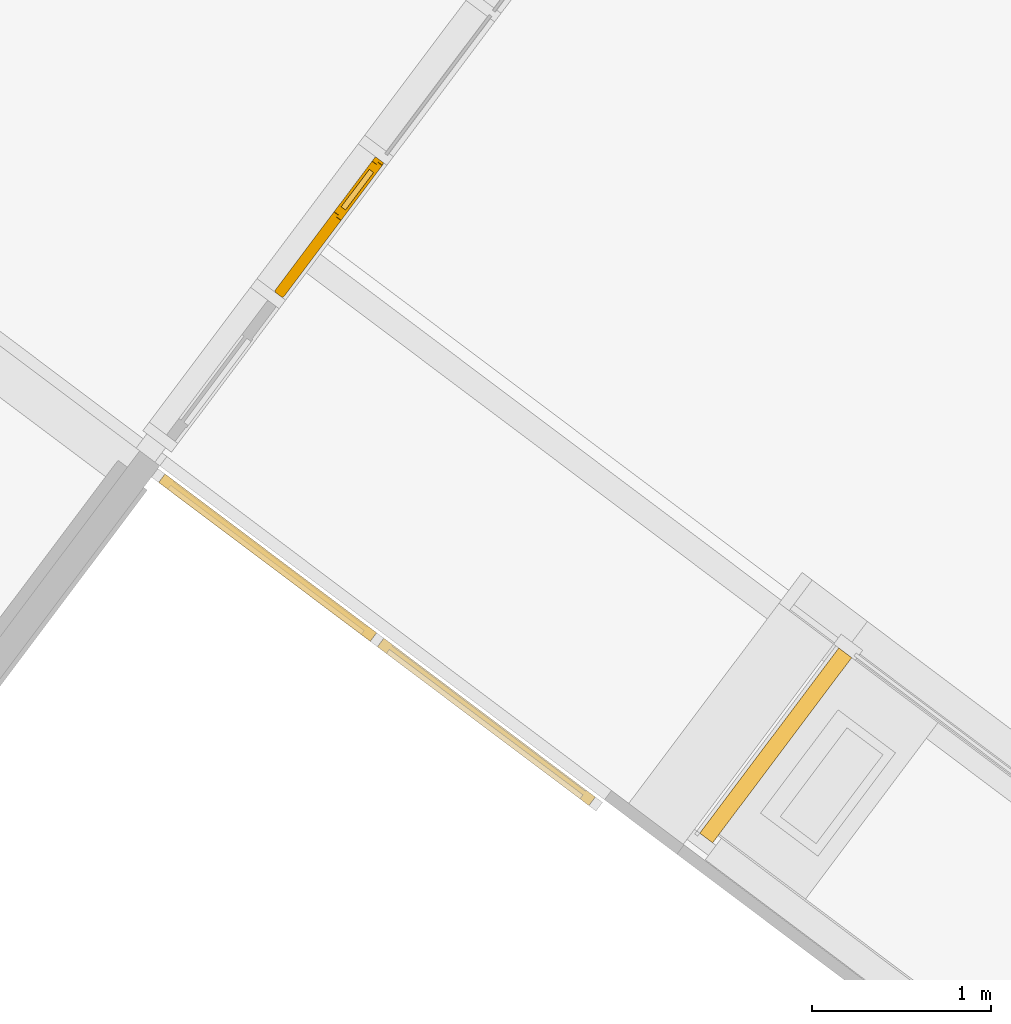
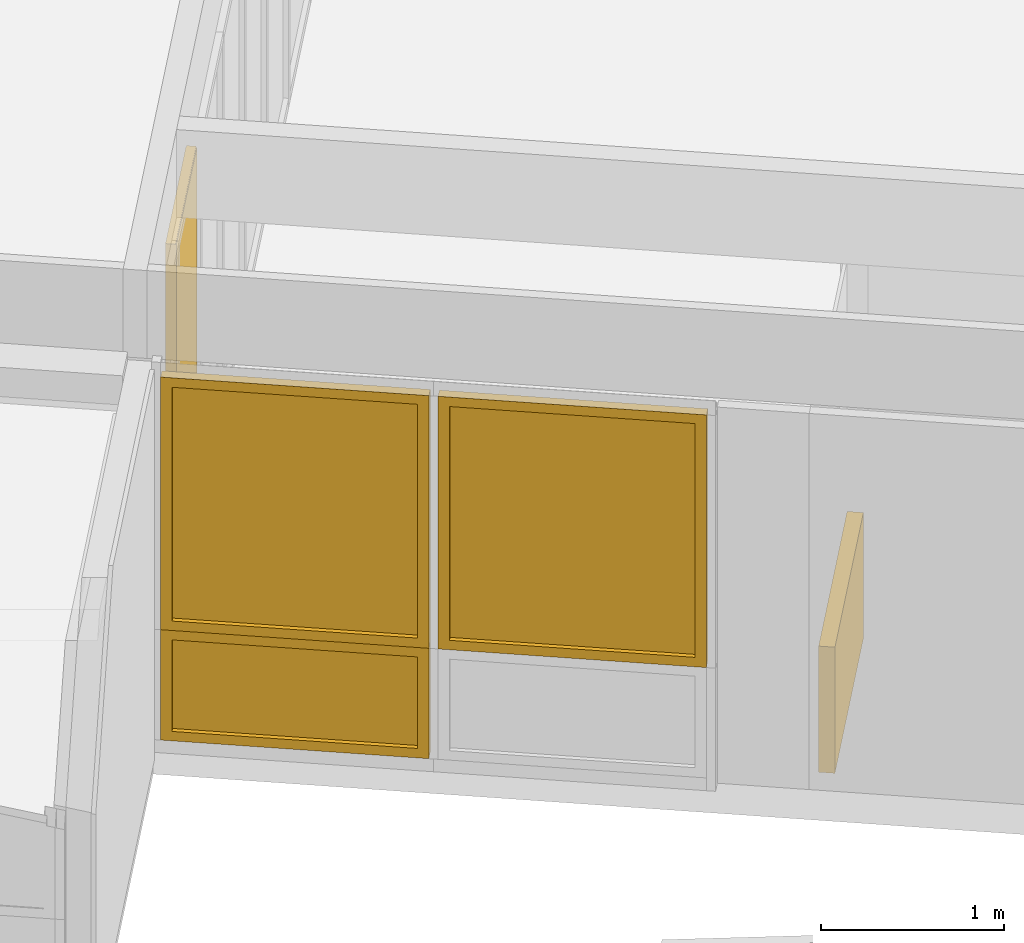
# One storey, part 149 of 243: 4 windows, 1 curtain wall, 3 elements without a shape of their own.
"""IFC2X3 building model written with IfcOpenShell, lengths in metres."""

from ifc_helpers import new_model, entity, si_unit, converted_unit, derived_unit, direction, frame, frame_2d, origin, place, context, subcontext, project, spatial, rectangle, extrude, faceted_brep, source, transform, mapped, material, material_list, layer, layer_set, layer_usage, type_object, type_shapes, element, aggregate, save


model = new_model("IFC2X3")

# Units and contexts
model_context = context("Model", 3, precision=1e-05, world=origin(), true_north=direction((6.123031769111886e-17, 1.0)))
body_context = subcontext(model_context, "Body", "Model", "MODEL_VIEW")
ifc_project = project(units=[si_unit("LENGTHUNIT", "METRE"), si_unit("AREAUNIT", "SQUARE_METRE"), si_unit("VOLUMEUNIT", "CUBIC_METRE"), converted_unit("PLANEANGLEUNIT", "DEGREE", entity("IfcRatioMeasure", 0.017453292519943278), si_unit("PLANEANGLEUNIT", "RADIAN"), dimensions=[0, 0, 0, 0, 0, 0, 0]), si_unit("MASSUNIT", "GRAM", prefix="KILO"), derived_unit("MASSDENSITYUNIT", [(si_unit("MASSUNIT", "GRAM", prefix="KILO"), 1), (si_unit("LENGTHUNIT", "METRE"), -3)]), derived_unit("IONCONCENTRATIONUNIT", [(si_unit("MASSUNIT", "GRAM", prefix="KILO"), 1), (si_unit("LENGTHUNIT", "METRE"), -3)]), derived_unit("MOMENTOFINERTIAUNIT", [(si_unit("LENGTHUNIT", "METRE"), 4)]), si_unit("TIMEUNIT", "SECOND"), si_unit("FREQUENCYUNIT", "HERTZ"), si_unit("THERMODYNAMICTEMPERATUREUNIT", "DEGREE_CELSIUS"), derived_unit("THERMALTRANSMITTANCEUNIT", [(si_unit("MASSUNIT", "GRAM", prefix="KILO"), 1), (si_unit("THERMODYNAMICTEMPERATUREUNIT", "KELVIN"), -1), (si_unit("TIMEUNIT", "SECOND"), -3)]), derived_unit("THERMALCONDUCTANCEUNIT", [(si_unit("MASSUNIT", "GRAM", prefix="KILO"), 1), (si_unit("THERMODYNAMICTEMPERATUREUNIT", "KELVIN"), -1), (si_unit("TIMEUNIT", "SECOND"), -3), (si_unit("LENGTHUNIT", "METRE"), 1)]), derived_unit("VOLUMETRICFLOWRATEUNIT", [(si_unit("LENGTHUNIT", "METRE"), 3), (si_unit("TIMEUNIT", "SECOND"), -1)]), derived_unit("MASSFLOWRATEUNIT", [(si_unit("MASSUNIT", "GRAM", prefix="KILO"), 1), (si_unit("TIMEUNIT", "SECOND"), -1)]), derived_unit("ROTATIONALFREQUENCYUNIT", [(si_unit("TIMEUNIT", "SECOND"), -1)]), si_unit("ELECTRICCURRENTUNIT", "AMPERE"), si_unit("ELECTRICVOLTAGEUNIT", "VOLT"), si_unit("POWERUNIT", "WATT"), si_unit("FORCEUNIT", "NEWTON", prefix="KILO"), si_unit("ILLUMINANCEUNIT", "LUX"), si_unit("LUMINOUSFLUXUNIT", "LUMEN"), si_unit("LUMINOUSINTENSITYUNIT", "CANDELA"), derived_unit("USERDEFINED", [(si_unit("MASSUNIT", "GRAM", prefix="KILO"), -1), (si_unit("LENGTHUNIT", "METRE"), -2), (si_unit("TIMEUNIT", "SECOND"), 3), (si_unit("LUMINOUSFLUXUNIT", "LUMEN"), 1)]), derived_unit("USERDEFINED", [(si_unit("MASSUNIT", "GRAM", prefix="KILO"), 1), (si_unit("TIMEUNIT", "SECOND"), -3), (si_unit("LENGTHUNIT", "METRE"), 3), (si_unit("ELECTRICCURRENTUNIT", "AMPERE"), -2)]), derived_unit("SOUNDPOWERUNIT", [(si_unit("MASSUNIT", "GRAM", prefix="KILO"), 1), (si_unit("TIMEUNIT", "SECOND"), -3), (si_unit("LENGTHUNIT", "METRE"), 2)]), derived_unit("SOUNDPRESSUREUNIT", [(si_unit("MASSUNIT", "GRAM", prefix="KILO"), 1), (si_unit("LENGTHUNIT", "METRE"), -1), (si_unit("TIMEUNIT", "SECOND"), -2)]), derived_unit("LINEARVELOCITYUNIT", [(si_unit("LENGTHUNIT", "METRE"), 1), (si_unit("TIMEUNIT", "SECOND"), -1)]), si_unit("PRESSUREUNIT", "PASCAL"), derived_unit("USERDEFINED", [(si_unit("MASSUNIT", "GRAM", prefix="KILO"), 1), (si_unit("LENGTHUNIT", "METRE"), -2), (si_unit("TIMEUNIT", "SECOND"), -2)]), derived_unit("LINEARFORCEUNIT", [(si_unit("MASSUNIT", "GRAM", prefix="KILO"), 1), (si_unit("TIMEUNIT", "SECOND"), -2)]), derived_unit("PLANARFORCEUNIT", [(si_unit("MASSUNIT", "GRAM", prefix="KILO"), 1), (si_unit("LENGTHUNIT", "METRE"), -1), (si_unit("TIMEUNIT", "SECOND"), -2)]), derived_unit("SPECIFICHEATCAPACITYUNIT", [(si_unit("THERMODYNAMICTEMPERATUREUNIT", "KELVIN"), -1), (si_unit("LENGTHUNIT", "METRE"), 2), (si_unit("TIMEUNIT", "SECOND"), -2)]), derived_unit("HEATINGVALUEUNIT", [(si_unit("LENGTHUNIT", "METRE"), 2), (si_unit("TIMEUNIT", "SECOND"), -2)]), derived_unit("VAPORPERMEABILITYUNIT", [(si_unit("LENGTHUNIT", "METRE"), -1), (si_unit("TIMEUNIT", "SECOND"), 1)]), derived_unit("DYNAMICVISCOSITYUNIT", [(si_unit("MASSUNIT", "GRAM", prefix="KILO"), 1), (si_unit("TIMEUNIT", "SECOND"), -1), (si_unit("LENGTHUNIT", "METRE"), -1)]), derived_unit("THERMALEXPANSIONCOEFFICIENTUNIT", [(si_unit("THERMODYNAMICTEMPERATUREUNIT", "KELVIN"), -1)]), derived_unit("MODULUSOFELASTICITYUNIT", [(si_unit("MASSUNIT", "GRAM", prefix="KILO"), 1), (si_unit("LENGTHUNIT", "METRE"), -1), (si_unit("TIMEUNIT", "SECOND"), -2)]), derived_unit("ISOTHERMALMOISTURECAPACITYUNIT", [(si_unit("LENGTHUNIT", "METRE"), 3), (si_unit("MASSUNIT", "GRAM", prefix="KILO"), -1)]), derived_unit("MOISTUREDIFFUSIVITYUNIT", [(si_unit("TIMEUNIT", "SECOND"), -1), (si_unit("LENGTHUNIT", "METRE"), 2)])], contexts=[model_context])

# Site, building, storey
site_placement = place(None, frame((0.0, 0.0, 235.0), z_axis=(0.0, 0.0, 1.0), x_axis=(-0.7996477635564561, 0.6004693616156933, 0.0)))
site = spatial("IfcSite", under=ifc_project, at=site_placement, Name="Default", CompositionType="ELEMENT")
building_placement = place(site_placement, origin())
building = spatial("IfcBuilding", under=site, at=building_placement, CompositionType="ELEMENT")
storey_placement = place(building_placement, origin())
storey = spatial("IfcBuildingStorey", under=building, at=storey_placement, Name="P0- Escola", CompositionType="ELEMENT", Elevation=0.0)

# Curtain wall, window
curtain_wall_type_1 = type_object("IfcCurtainWallType", Name="Muro cortina:MC- INT- a3", PredefinedType="NOTDEFINED")
curtain_wall_1_placement = place(storey_placement, origin())
curtain_wall_1 = element("IfcCurtainWall", 1, at=curtain_wall_1_placement, inside=storey, type_object=curtain_wall_type_1, Name="Muro cortina:MC- INT- a3", ObjectType="Muro cortina:MC- INT- a3")
ifc_material_1 = material(Name="_Fusta massisa- T1-  REV- PAV")
window_style_1 = type_object("IfcWindowStyle", Name="MC- Fusta- Finestra ventilacio interior:MC- Fusta- Finestra ventilacio interior", ConstructionType="NOTDEFINED", OperationType="NOTDEFINED", ParameterTakesPrecedence=False, Sizeable=False, material=ifc_material_1)
shared_shape_1 = source(origin(), body_context, "Body", "Brep", [
    faceted_brep([(0.3930000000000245, 0.025000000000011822, 2.382999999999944), (0.13200000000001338, 0.0250000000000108, 2.3829999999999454), (0.13200000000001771, 0.025000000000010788, 1.0449999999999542), (0.3930000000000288, 0.025000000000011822, 1.0449999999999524), (0.13200000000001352, -0.004999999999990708, 2.3829999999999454), (0.13200000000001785, -0.004999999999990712, 1.0449999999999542), (0.3930000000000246, -0.004999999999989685, 2.382999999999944), (0.393000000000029, -0.00499999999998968, 1.0449999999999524), (0.08700000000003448, 0.04000000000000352, 2.427999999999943), (0.08700000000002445, 0.04000000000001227, 1.0), (0.08700000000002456, 0.01000000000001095, 1.0), (0.0870000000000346, 0.01000000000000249, 2.427999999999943), (0.4380000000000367, 0.010000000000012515, 1.0), (0.4380000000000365, 0.04000000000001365, 1.0), (0.43800000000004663, 0.0400000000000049, 2.427999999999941), (0.4380000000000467, 0.010000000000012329, 2.428000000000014), (0.07200000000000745, 0.009999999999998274, 0.9850000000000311), (0.07200000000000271, 0.010000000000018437, 2.44300000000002), (0.4530000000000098, 0.010000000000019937, 2.4430000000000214), (0.4530000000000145, 0.009999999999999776, 0.9850000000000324), (0.07200000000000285, -0.019999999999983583, 2.443000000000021), (0.07200000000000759, -0.020000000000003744, 0.9850000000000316), (0.45300000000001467, -0.02000000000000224, 0.985000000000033), (0.4530000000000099, -0.019999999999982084, 2.443000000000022)], [[[0, 1, 2, 3]], [[1, 4, 5, 2]], [[4, 6, 7, 5]], [[3, 7, 6, 0]], [[8, 9, 10, 11]], [[12, 13, 14, 15]], [[15, 14, 8, 11]], [[8, 14, 13, 9]], [[0, 6, 4, 1]], [[2, 5, 7, 3]], [[9, 13, 12, 10]], [[11, 10, 12, 15], [16, 17, 18, 19]], [[20, 21, 22, 23]], [[20, 23, 18, 17]], [[16, 21, 20, 17]], [[18, 23, 22, 19]], [[16, 19, 22, 21]]], outer=[[True], [True], [True], [True], [True], [True], [True], [True], [True], [True], [True], [False, True], [True], [True], [True], [True], [True]]),
    faceted_brep([(0.45500000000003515, -0.019999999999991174, 0.9850000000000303), (0.07000000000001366, -0.019999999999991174, 0.9850000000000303), (0.07000000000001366, -0.019999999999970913, 2.4449999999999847), (0.45500000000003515, -0.01999999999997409, 2.444999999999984), (-0.46500000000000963, -0.019999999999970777, 2.4549999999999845), (-0.4650000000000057, -0.020000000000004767, 0.005000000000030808), (0.46500000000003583, -0.020000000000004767, 0.00499999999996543), (0.46500000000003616, -0.019999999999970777, 2.4549999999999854), (0.4650000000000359, -0.01599999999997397, 2.454999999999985), (0.4650000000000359, -0.01600000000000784, 0.00499999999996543), (-0.46500000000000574, -0.01600000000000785, 0.005000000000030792), (0.47000000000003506, -0.015999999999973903, 2.459999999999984), (-0.47000000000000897, -0.015999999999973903, 2.459999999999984), (-0.4700000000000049, -0.016000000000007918, 0.0), (0.47000000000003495, -0.016000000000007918, 0.0), (-0.46500000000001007, -0.01599999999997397, 2.455000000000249), (-0.46500000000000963, 0.03600000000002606, 2.454999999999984), (-0.4650000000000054, 0.03599999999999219, 0.005000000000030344), (0.4650000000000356, 0.03599999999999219, 0.00499999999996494), (0.46500000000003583, 0.03600000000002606, 2.454999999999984), (-0.47000000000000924, 0.036000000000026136, 2.459999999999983), (0.470000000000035, 0.036000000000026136, 2.459999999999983), (0.46999999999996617, 0.03599999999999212, 0.0), (-0.4700000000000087, 0.03599999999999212, 0.0), (-0.46500000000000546, 0.03999999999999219, 0.005000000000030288), (0.46500000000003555, 0.03999999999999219, 0.005000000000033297), (0.08500000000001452, 0.040000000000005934, 1.0), (0.4400000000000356, 0.04000000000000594, 1.0), (0.4400000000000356, 0.040000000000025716, 2.4299999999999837), (0.08500000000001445, 0.040000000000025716, 2.4299999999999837), (-0.46500000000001, 0.040000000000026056, 2.4550000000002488), (0.4650000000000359, 0.040000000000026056, 2.454999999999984), (0.45500000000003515, 0.010000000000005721, 0.9850000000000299), (0.4550000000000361, 0.010000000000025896, 2.4449999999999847), (0.08500000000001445, 0.0100000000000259, 2.444999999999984), (0.07000000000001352, 0.010000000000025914, 2.444999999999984), (0.07000000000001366, 0.010000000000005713, 0.9850000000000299), (0.08500000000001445, 0.010000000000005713, 0.9850000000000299), (0.4400000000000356, 0.01000000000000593, 1.0), (0.08500000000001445, 0.010000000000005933, 1.0), (0.08500000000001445, 0.010000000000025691, 2.4299999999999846), (0.4400000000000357, 0.010000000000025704, 2.429999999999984)], [[[0, 1, 2, 3], [4, 5, 6, 7]], [[8, 7, 6, 9]], [[5, 10, 9, 6]], [[11, 12, 13, 14], [10, 15, 8, 9]], [[16, 17, 18, 19], [20, 21, 22, 23]], [[17, 24, 25, 18]], [[26, 27, 28, 29], [24, 30, 31, 25]], [[32, 33, 34, 35, 36, 37], [38, 39, 40, 41]], [[26, 39, 38, 27]], [[39, 26, 29, 40]], [[41, 28, 27, 38]], [[3, 33, 32, 0]], [[1, 36, 35, 2]], [[36, 1, 0, 32, 37]], [[4, 15, 10, 5]], [[16, 30, 24, 17]], [[12, 20, 23, 13]], [[13, 23, 22, 14]], [[21, 11, 14, 22]], [[7, 8, 15, 4]], [[11, 21, 20, 12]], [[33, 3, 2, 35, 34]], [[28, 41, 40, 29]], [[19, 31, 30, 16]], [[31, 19, 18, 25]]], outer=[[False, True], [True], [True], [True, False], [False, True], [True], [False, True], [True, False], [True], [True], [True], [True], [True], [True], [True], [True], [True], [True], [True], [True], [True], [True], [True], [True], [True]]),
])
type_shapes(window_style_1, [shared_shape_1])
window_1_placement = place(curtain_wall_1_placement, frame((13.279147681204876, -19.970191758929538, 0.059999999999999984), z_axis=(0.0, 0.0, 1.0), x_axis=(0.0, -1.0, 0.0)))
window_1 = element("IfcWindow", 2, at=window_1_placement, type_object=window_style_1, material=ifc_material_1, Name="MC- Fusta- Finestra ventilacio interior:MC- Fusta- Finestra ventilacio interior", ObjectType="MC- Fusta- Finestra ventilacio interior:MC- Fusta- Finestra ventilacio interior", OverallHeight=2.460000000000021, OverallWidth=0.9400000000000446, context=body_context, shape_type="MappedRepresentation", body=[
    mapped(shared_shape_1, transform((0.0, 0.0, 0.0), scale=1.0)),
])
aggregate(curtain_wall_1, [window_1])

# Curtain walls
curtain_wall_type_2 = type_object("IfcCurtainWallType", Name="Muro cortina:MC- INT- k1", PredefinedType="NOTDEFINED")
curtain_wall_2_placement = place(storey_placement, origin())
curtain_wall_2 = element("IfcCurtainWall", 3, at=curtain_wall_2_placement, inside=storey, type_object=curtain_wall_type_2, Name="Muro cortina:MC- INT- k1", ObjectType="Muro cortina:MC- INT- k1")
ifc_material_2 = material(Name="_Ceràmica- ENV")
ifc_layer = layer(ifc_material_2, 0.09)
ifc_layer_set = layer_set([ifc_layer], Name="Muro básico:ENV- Ceràmic- 9 cm")
ifc_layer_usage = layer_usage(ifc_layer_set, "AXIS2", "NEGATIVE", 0.045)
curtain_wall_type_3 = type_object("IfcCurtainWallType", Name="Muro básico:ENV- Ceràmic- 9 cm", PredefinedType="NOTDEFINED", material=ifc_layer_set)
curtain_wall_3_placement = place(storey_placement, frame((9.564147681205, -19.80119175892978, 0.0), z_axis=(0.0, 0.0, 1.0), x_axis=(0.0, 1.0, 0.0)))
curtain_wall_3 = element("IfcCurtainWall", 4, at=curtain_wall_3_placement, type_object=curtain_wall_type_3, material=ifc_layer_usage, Name="Muro básico:ENV- Ceràmic- 9 cm", ObjectType="Muro básico:ENV- Ceràmic- 9 cm", context=body_context, shape_type="SweptSolid", body=[
    extrude(rectangle(XDim=0.09000000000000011, YDim=1.2910000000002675, at=frame_2d((-0.01500000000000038, 0.1968333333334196), x_axis=(1.0, 0.0))), frame((0.8423333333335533, 0.01500000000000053, 0.0), z_axis=(0.0, 0.0, 1.0), x_axis=(0.0, 1.0, 0.0)), (0.0, 0.0, 1.0), 0.8399999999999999),
])
aggregate(curtain_wall_2, [curtain_wall_3])

# Curtain wall, windows
curtain_wall_type_4 = type_object("IfcCurtainWallType", Name="Muro cortina:MC- EXT- AL3", PredefinedType="NOTDEFINED")
curtain_wall_4_placement = place(storey_placement, origin())
curtain_wall_4 = element("IfcCurtainWall", 5, at=curtain_wall_4_placement, inside=storey, type_object=curtain_wall_type_4, Name="Muro cortina:MC- EXT- AL3", ObjectType="Muro cortina:MC- EXT- AL3")
ifc_material_3 = material(Name="_Vidre")
ifc_material_4 = material(Name="_Alumini- T1- Perfil")
ifc_material_list = material_list([ifc_material_3, ifc_material_4])
window_style_2 = type_object("IfcWindowStyle", Name="MC- Alu- Conjunt vidre fix- 62x60 cm:MC- Alu- Conjunt vidre fix- 62x60 cm", ConstructionType="NOTDEFINED", OperationType="NOTDEFINED", ParameterTakesPrecedence=False, Sizeable=False, material=ifc_material_list)
shared_shape_2 = source(origin(), body_context, "Body", "Brep", [
    faceted_brep([(0.6886932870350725, -0.007600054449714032, 0.048806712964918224), (0.6886932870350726, -0.03160022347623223, 0.048806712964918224), (-0.688693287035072, -0.03160022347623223, 0.048806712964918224), (-0.6886932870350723, -0.007600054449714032, 0.048806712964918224), (0.6886932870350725, -0.007600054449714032, 0.6859999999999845), (-0.6886932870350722, -0.007600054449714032, 0.6859999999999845), (-0.688693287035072, -0.03160022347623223, 0.6859999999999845), (0.6886932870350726, -0.03160022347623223, 0.6859999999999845)], [[[0, 1, 2, 3]], [[4, 0, 3, 5]], [[5, 3, 2, 6]], [[6, 2, 1, 7]], [[7, 1, 0, 4]], [[4, 5, 6, 7]]]),
    faceted_brep([(0.7374999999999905, -0.05999999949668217, 0.7349999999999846), (0.7374999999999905, -0.05999999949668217, 0.0), (0.7374999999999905, 0.0, 0.0), (0.7374999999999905, 0.0, 0.7349999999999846), (-0.7374999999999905, 0.0, 0.7349999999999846), (-0.7374999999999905, 0.0, 0.0), (0.6746931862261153, 0.0, 0.6721931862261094), (-0.6746931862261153, 0.0, 0.6721931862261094), (-0.6746931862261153, 0.0, 0.06280681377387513), (0.6746931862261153, 0.0, 0.06280681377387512), (-0.7374999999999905, -0.05999999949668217, 0.0), (-0.7374999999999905, -0.05999999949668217, 0.7349999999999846), (-0.6746960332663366, -0.05999999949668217, 0.6721960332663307), (0.6746960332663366, -0.05999999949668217, 0.6721960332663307), (0.6746960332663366, -0.05999999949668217, 0.06280396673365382), (-0.6746960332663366, -0.05999999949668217, 0.06280396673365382), (0.6746960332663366, -0.03160022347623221, 0.6721960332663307), (0.6746960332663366, -0.03160022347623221, 0.06280396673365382), (-0.6746960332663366, -0.03160022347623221, 0.06280396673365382), (-0.6746960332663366, -0.03160022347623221, 0.6721960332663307), (-0.6886932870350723, -0.03160022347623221, 0.6861932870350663), (0.6886932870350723, -0.03160022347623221, 0.6861932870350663), (0.6886932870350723, -0.03160022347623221, 0.048806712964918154), (-0.6886932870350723, -0.03160022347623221, 0.04880671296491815), (0.6886932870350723, -0.007600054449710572, 0.6861932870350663), (0.6886932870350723, -0.007600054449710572, 0.04880671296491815), (-0.6886932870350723, -0.007600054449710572, 0.048806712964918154), (-0.6886932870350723, -0.007600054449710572, 0.6861932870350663), (-0.6746931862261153, -0.007600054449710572, 0.6721931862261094), (0.6746931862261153, -0.007600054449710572, 0.6721931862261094), (0.6746931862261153, -0.007600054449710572, 0.06280681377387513), (-0.6746931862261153, -0.007600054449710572, 0.06280681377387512)], [[[0, 1, 2, 3]], [[4, 3, 2, 5], [6, 7, 8, 9]], [[1, 10, 5, 2]], [[0, 11, 10, 1], [12, 13, 14, 15]], [[16, 17, 14, 13]], [[17, 18, 15, 14]], [[16, 19, 18, 17], [20, 21, 22, 23]], [[24, 25, 22, 21]], [[25, 26, 23, 22]], [[24, 27, 26, 25], [28, 29, 30, 31]], [[6, 9, 30, 29]], [[9, 8, 31, 30]], [[10, 11, 4, 5]], [[18, 19, 12, 15]], [[26, 27, 20, 23]], [[8, 7, 28, 31]], [[11, 0, 3, 4]], [[19, 16, 13, 12]], [[27, 24, 21, 20]], [[7, 6, 29, 28]]], outer=[[True], [True, False], [True], [True, False], [True], [True], [False, True], [True], [True], [True, False], [True], [True], [True], [True], [True], [True], [True], [True], [True], [True]]),
])
type_shapes(window_style_2, [shared_shape_2])
window_2_placement = place(curtain_wall_4_placement, frame((12.457647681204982, -18.321991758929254, 0.085), z_axis=(0.0, 0.0, 1.0), x_axis=(-1.0, 0.0, 0.0)))
window_2 = element("IfcWindow", 6, at=window_2_placement, type_object=window_style_2, material=ifc_material_list, Name="MC- Alu- Conjunt vidre fix- 62x60 cm:MC- Alu- Conjunt vidre fix- 62x60 cm", ObjectType="MC- Alu- Conjunt vidre fix- 62x60 cm:MC- Alu- Conjunt vidre fix- 62x60 cm", OverallHeight=0.7349999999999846, OverallWidth=1.474999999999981, context=body_context, shape_type="MappedRepresentation", body=[
    mapped(shared_shape_2, transform((0.0, 0.0, 0.0), scale=1.0)),
])
window_style_3 = type_object("IfcWindowStyle", Name="MC- Alu- Conjunt vidre fix- 62x60 cm:MC- Alu- Conjunt vidre fix- 62x60 cm", ConstructionType="NOTDEFINED", OperationType="NOTDEFINED", ParameterTakesPrecedence=False, Sizeable=False, material=ifc_material_list)
shared_shape_3 = source(origin(), body_context, "Body", "Brep", [
    faceted_brep([(0.6886932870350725, -0.007600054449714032, 0.048806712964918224), (0.6886932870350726, -0.03160022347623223, 0.048806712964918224), (-0.688693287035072, -0.03160022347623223, 0.048806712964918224), (-0.6886932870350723, -0.007600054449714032, 0.048806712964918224), (0.6886932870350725, -0.007600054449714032, 1.6335000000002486), (-0.6886932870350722, -0.007600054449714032, 1.6335000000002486), (-0.688693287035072, -0.03160022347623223, 1.6335000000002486), (0.6886932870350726, -0.03160022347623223, 1.6335000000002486)], [[[0, 1, 2, 3]], [[4, 0, 3, 5]], [[5, 3, 2, 6]], [[6, 2, 1, 7]], [[7, 1, 0, 4]], [[4, 5, 6, 7]]]),
    faceted_brep([(0.7374999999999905, -0.05999999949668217, 1.6825000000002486), (0.7374999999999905, -0.05999999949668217, 0.0), (0.7374999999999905, 0.0, 0.0), (0.7374999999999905, 0.0, 1.6825000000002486), (-0.7374999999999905, 0.0, 1.6825000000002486), (-0.7374999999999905, 0.0, 0.0), (0.6746931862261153, 0.0, 1.6196931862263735), (-0.6746931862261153, 0.0, 1.6196931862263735), (-0.6746931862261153, 0.0, 0.06280681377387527), (0.6746931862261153, 0.0, 0.06280681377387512), (-0.7374999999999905, -0.05999999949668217, 0.0), (-0.7374999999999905, -0.05999999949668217, 1.6825000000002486), (-0.6746960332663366, -0.05999999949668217, 1.6196960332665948), (0.6746960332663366, -0.05999999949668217, 1.6196960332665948), (0.6746960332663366, -0.05999999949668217, 0.06280396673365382), (-0.6746960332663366, -0.05999999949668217, 0.06280396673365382), (0.6746960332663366, -0.03160022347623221, 1.6196960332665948), (0.6746960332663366, -0.03160022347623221, 0.06280396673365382), (-0.6746960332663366, -0.03160022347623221, 0.06280396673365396), (-0.6746960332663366, -0.03160022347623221, 1.6196960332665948), (-0.6886932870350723, -0.03160022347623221, 1.6336932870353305), (0.6886932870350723, -0.03160022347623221, 1.6336932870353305), (0.6886932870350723, -0.03160022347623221, 0.048806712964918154), (-0.6886932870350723, -0.03160022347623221, 0.04880671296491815), (0.6886932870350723, -0.007600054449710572, 1.6336932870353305), (0.6886932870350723, -0.007600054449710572, 0.04880671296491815), (-0.6886932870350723, -0.007600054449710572, 0.048806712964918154), (-0.6886932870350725, -0.007600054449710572, 1.6336932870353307), (-0.6746931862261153, -0.007600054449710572, 1.6196931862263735), (0.6746931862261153, -0.007600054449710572, 1.6196931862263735), (0.6746931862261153, -0.007600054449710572, 0.06280681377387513), (-0.6746931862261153, -0.007600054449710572, 0.06280681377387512)], [[[0, 1, 2, 3]], [[4, 3, 2, 5], [6, 7, 8, 9]], [[1, 10, 5, 2]], [[0, 11, 10, 1], [12, 13, 14, 15]], [[16, 17, 14, 13]], [[17, 18, 15, 14]], [[16, 19, 18, 17], [20, 21, 22, 23]], [[24, 25, 22, 21]], [[25, 26, 23, 22]], [[24, 27, 26, 25], [28, 29, 30, 31]], [[6, 9, 30, 29]], [[9, 8, 31, 30]], [[10, 11, 4, 5]], [[18, 19, 12, 15]], [[26, 27, 20, 23]], [[8, 7, 28, 31]], [[11, 0, 3, 4]], [[19, 16, 13, 12]], [[27, 24, 21, 20]], [[7, 6, 29, 28]]], outer=[[True], [True, False], [True], [True, False], [True], [True], [False, True], [True], [True], [True, False], [True], [True], [True], [True], [True], [True], [True], [True], [True], [True]]),
])
type_shapes(window_style_3, [shared_shape_3])
window_3_placement = place(curtain_wall_4_placement, frame((10.932647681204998, -18.32199175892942, 0.8199999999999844), z_axis=(0.0, 0.0, 1.0), x_axis=(-1.0, 0.0, 0.0)))
window_3 = element("IfcWindow", 7, at=window_3_placement, type_object=window_style_3, material=ifc_material_list, Name="MC- Alu- Conjunt vidre fix- 62x60 cm:MC- Alu- Conjunt vidre fix- 62x60 cm", ObjectType="MC- Alu- Conjunt vidre fix- 62x60 cm:MC- Alu- Conjunt vidre fix- 62x60 cm", OverallHeight=1.6825000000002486, OverallWidth=1.474999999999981, context=body_context, shape_type="MappedRepresentation", body=[
    mapped(shared_shape_3, transform((0.0, 0.0, 0.0), scale=1.0)),
])
window_4_placement = place(curtain_wall_4_placement, frame((12.457647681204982, -18.321991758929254, 0.8199999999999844), z_axis=(0.0, 0.0, 1.0), x_axis=(-1.0, 0.0, 0.0)))
window_4 = element("IfcWindow", 8, at=window_4_placement, type_object=window_style_3, material=ifc_material_list, Name="MC- Alu- Conjunt vidre fix- 62x60 cm:MC- Alu- Conjunt vidre fix- 62x60 cm", ObjectType="MC- Alu- Conjunt vidre fix- 62x60 cm:MC- Alu- Conjunt vidre fix- 62x60 cm", OverallHeight=1.6825000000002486, OverallWidth=1.474999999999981, context=body_context, shape_type="MappedRepresentation", body=[
    mapped(shared_shape_3, transform((0.0, 0.0, 0.0), scale=1.0)),
])
aggregate(curtain_wall_4, [window_2, window_3, window_4])

save(model, "model.ifc")
